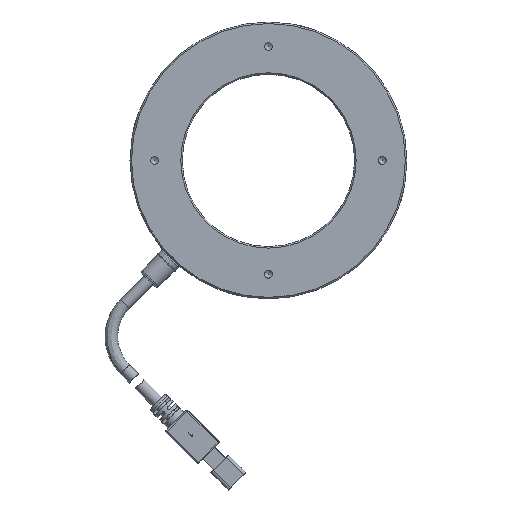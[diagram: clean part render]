
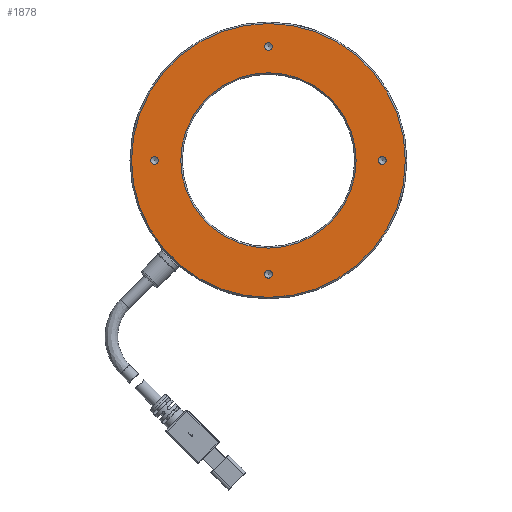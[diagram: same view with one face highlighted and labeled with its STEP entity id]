
A CAD part, front view. The second image highlights one B-rep face of the part: STEP entity #1878.
In plain terms, the highlighted planar face has unit normal (0, -1, 0).
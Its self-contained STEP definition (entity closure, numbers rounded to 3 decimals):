
#349 = CARTESIAN_POINT ( 'NONE',  ( 0., 21.931, -28.5 ) ) ;
#407 = CARTESIAN_POINT ( 'NONE',  ( 0., 21.931, 0. ) ) ;
#840 = EDGE_LOOP ( 'NONE', ( #9010 ) ) ;
#897 = CARTESIAN_POINT ( 'NONE',  ( 0., 21.931, 44.5 ) ) ;
#1107 = CIRCLE ( 'NONE', #5103, 28.5 ) ;
#1138 = FACE_BOUND ( 'NONE', #11455, .T. ) ;
#1263 = CARTESIAN_POINT ( 'NONE',  ( -37., 21.931, 0. ) ) ;
#1356 = AXIS2_PLACEMENT_3D ( 'NONE', #407, #3407, #5360 ) ;
#1878 = ADVANCED_FACE ( 'NONE', ( #8592, #1138, #10448, #9365, #9533, #5390 ), #4356, .F. ) ;
#1939 = VERTEX_POINT ( 'NONE', #5771 ) ;
#2339 = AXIS2_PLACEMENT_3D ( 'NONE', #5788, #5617, #2786 ) ;
#2620 = DIRECTION ( 'NONE',  ( 0., 0., 1. ) ) ;
#2782 = EDGE_CURVE ( 'NONE', #1939, #1939, #12097, .T. ) ;
#2786 = DIRECTION ( 'NONE',  ( 0., 0., 1. ) ) ;
#3358 = CARTESIAN_POINT ( 'NONE',  ( -28., 21.931, 0. ) ) ;
#3407 = DIRECTION ( 'NONE',  ( 0., 1., 0. ) ) ;
#3877 = ORIENTED_EDGE ( 'NONE', *, *, #9159, .T. ) ;
#3891 = VERTEX_POINT ( 'NONE', #8215 ) ;
#3989 = EDGE_LOOP ( 'NONE', ( #3877 ) ) ;
#4096 = CARTESIAN_POINT ( 'NONE',  ( 37., 21.931, 1.25 ) ) ;
#4356 = PLANE ( 'NONE',  #5947 ) ;
#4554 = CARTESIAN_POINT ( 'NONE',  ( 37., 21.931, 0. ) ) ;
#4612 = CARTESIAN_POINT ( 'NONE',  ( 0., 21.931, 0. ) ) ;
#4709 = EDGE_LOOP ( 'NONE', ( #5455 ) ) ;
#5103 = AXIS2_PLACEMENT_3D ( 'NONE', #4612, #12514, #11426 ) ;
#5126 = VERTEX_POINT ( 'NONE', #4096 ) ;
#5156 = DIRECTION ( 'NONE',  ( 0., 0., 1. ) ) ;
#5216 = CARTESIAN_POINT ( 'NONE',  ( 0., 21.931, -35.75 ) ) ;
#5331 = DIRECTION ( 'NONE',  ( 0., 1., 0. ) ) ;
#5360 = DIRECTION ( 'NONE',  ( 0., 0., 1. ) ) ;
#5390 = FACE_BOUND ( 'NONE', #3989, .T. ) ;
#5455 = ORIENTED_EDGE ( 'NONE', *, *, #2782, .T. ) ;
#5617 = DIRECTION ( 'NONE',  ( 0., 1., 0. ) ) ;
#5771 = CARTESIAN_POINT ( 'NONE',  ( -37., 21.931, 1.25 ) ) ;
#5788 = CARTESIAN_POINT ( 'NONE',  ( 0., 21.931, -37. ) ) ;
#5885 = VERTEX_POINT ( 'NONE', #897 ) ;
#5947 = AXIS2_PLACEMENT_3D ( 'NONE', #3358, #9204, #8337 ) ;
#6290 = EDGE_CURVE ( 'NONE', #5885, #5885, #9681, .T. ) ;
#6370 = ORIENTED_EDGE ( 'NONE', *, *, #8183, .F. ) ;
#6395 = CARTESIAN_POINT ( 'NONE',  ( 0., 21.931, 37. ) ) ;
#6973 = CIRCLE ( 'NONE', #2339, 1.25 ) ;
#7331 = ORIENTED_EDGE ( 'NONE', *, *, #9916, .T. ) ;
#7450 = AXIS2_PLACEMENT_3D ( 'NONE', #6395, #5331, #12172 ) ;
#8183 = EDGE_CURVE ( 'NONE', #10767, #10767, #1107, .T. ) ;
#8215 = CARTESIAN_POINT ( 'NONE',  ( 0., 21.931, 38.25 ) ) ;
#8258 = EDGE_LOOP ( 'NONE', ( #7331 ) ) ;
#8337 = DIRECTION ( 'NONE',  ( 0., 0., 1. ) ) ;
#8592 = FACE_OUTER_BOUND ( 'NONE', #840, .T. ) ;
#8868 = ORIENTED_EDGE ( 'NONE', *, *, #12135, .T. ) ;
#9010 = ORIENTED_EDGE ( 'NONE', *, *, #6290, .F. ) ;
#9159 = EDGE_CURVE ( 'NONE', #5126, #5126, #11419, .T. ) ;
#9204 = DIRECTION ( 'NONE',  ( 0., 1., 0. ) ) ;
#9221 = AXIS2_PLACEMENT_3D ( 'NONE', #1263, #9224, #5156 ) ;
#9224 = DIRECTION ( 'NONE',  ( 0., 1., 0. ) ) ;
#9365 = FACE_BOUND ( 'NONE', #4709, .T. ) ;
#9402 = VERTEX_POINT ( 'NONE', #5216 ) ;
#9445 = CIRCLE ( 'NONE', #7450, 1.25 ) ;
#9533 = FACE_BOUND ( 'NONE', #9581, .T. ) ;
#9581 = EDGE_LOOP ( 'NONE', ( #8868 ) ) ;
#9681 = CIRCLE ( 'NONE', #1356, 44.5 ) ;
#9916 = EDGE_CURVE ( 'NONE', #3891, #3891, #9445, .T. ) ;
#10380 = DIRECTION ( 'NONE',  ( 0., 1., 0. ) ) ;
#10448 = FACE_BOUND ( 'NONE', #8258, .T. ) ;
#10767 = VERTEX_POINT ( 'NONE', #349 ) ;
#11045 = AXIS2_PLACEMENT_3D ( 'NONE', #4554, #10380, #2620 ) ;
#11419 = CIRCLE ( 'NONE', #11045, 1.25 ) ;
#11426 = DIRECTION ( 'NONE',  ( 0., 0., -1. ) ) ;
#11455 = EDGE_LOOP ( 'NONE', ( #6370 ) ) ;
#12097 = CIRCLE ( 'NONE', #9221, 1.25 ) ;
#12135 = EDGE_CURVE ( 'NONE', #9402, #9402, #6973, .T. ) ;
#12172 = DIRECTION ( 'NONE',  ( 0., 0., 1. ) ) ;
#12514 = DIRECTION ( 'NONE',  ( 0., -1., 0. ) ) ;
